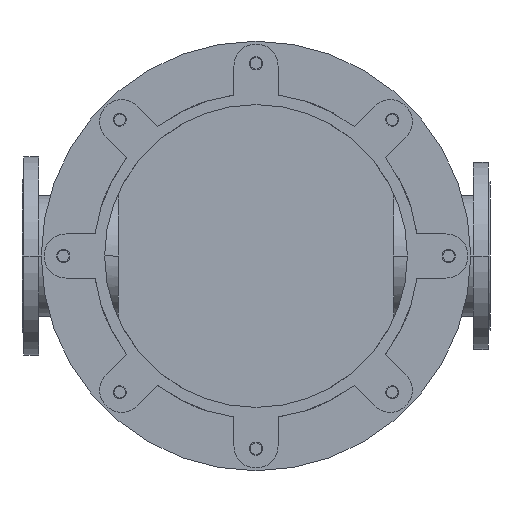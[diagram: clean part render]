
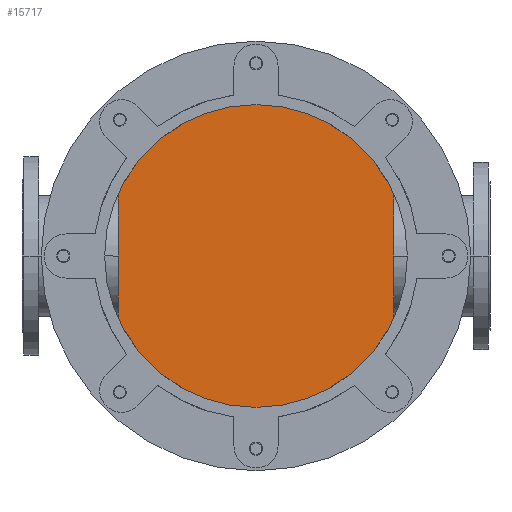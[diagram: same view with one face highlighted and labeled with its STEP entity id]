
A CAD part, front view. The second image highlights one B-rep face of the part: STEP entity #15717.
In plain terms, the highlighted planar face has unit normal (0, -1, 0).
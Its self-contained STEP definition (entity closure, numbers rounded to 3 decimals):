
#3889=CARTESIAN_POINT('',(0.,1117.,0.));
#3890=DIRECTION('',(0.,-1.,0.));
#3891=DIRECTION('',(0.,0.,-1.));
#3892=AXIS2_PLACEMENT_3D('',#3889,#3890,#3891);
#4033=CARTESIAN_POINT('',(0.,1117.,0.));
#4034=DIRECTION('',(0.,-1.,0.));
#4035=DIRECTION('',(0.,0.,1.));
#4036=AXIS2_PLACEMENT_3D('',#4033,#4034,#4035);
#9167=CARTESIAN_POINT('',(0.,1117.,290.));
#9168=CARTESIAN_POINT('',(0.,1117.,-290.));
#9169=VERTEX_POINT('',#9167);
#9170=VERTEX_POINT('',#9168);
#15708=CARTESIAN_POINT('',(0.,1117.,0.));
#15709=DIRECTION('',(0.,1.,0.));
#15710=DIRECTION('',(0.,0.,-1.));
#15711=AXIS2_PLACEMENT_3D('',#15708,#15709,#15710);
#15712=PLANE('',#15711);
#15713=ORIENTED_EDGE('',*,*,#15694,.F.);
#15714=ORIENTED_EDGE('',*,*,#15593,.F.);
#15715=EDGE_LOOP('',(#15713,#15714));
#15716=FACE_OUTER_BOUND('',#15715,.F.);
#15717=ADVANCED_FACE('',(#15716),#15712,.F.);
#3893=CIRCLE('',#3892,290.);
#4037=CIRCLE('',#4036,290.);
#15593=EDGE_CURVE('',#9170,#9169,#3893,.T.);
#15694=EDGE_CURVE('',#9169,#9170,#4037,.T.);
